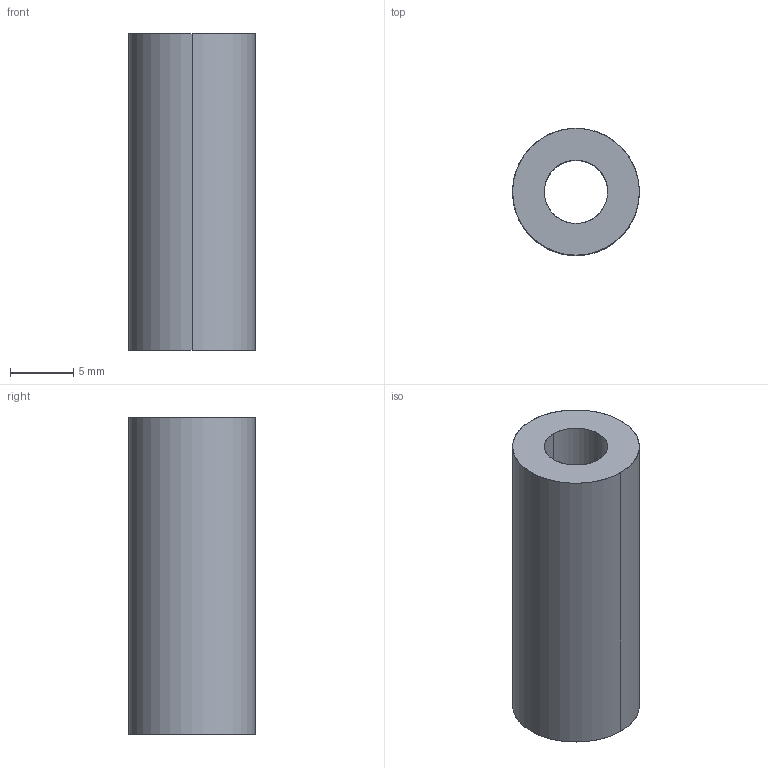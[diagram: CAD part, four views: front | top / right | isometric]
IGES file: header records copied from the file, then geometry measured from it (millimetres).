
Global section: file name: E:\UnigraphicsGraphicData\MISUMI_PRESS-PARTS\IGES\3d_swz10-25_00773_r00.igs; native system: NX V5.0; preprocessor: UGS NX IGES V5.0; author: MISUMI; date: 20110105.163303; units: millimetre
Bounding box: 10 x 10 x 25 mm (x, y, z)
Surface area: 1296.3 mm2 (no closed solid volume)
Topology: 0 solids, 0 shells, 6 faces, 48 edges, 48 vertices
Faces by surface type: bspline 6
